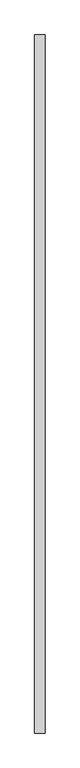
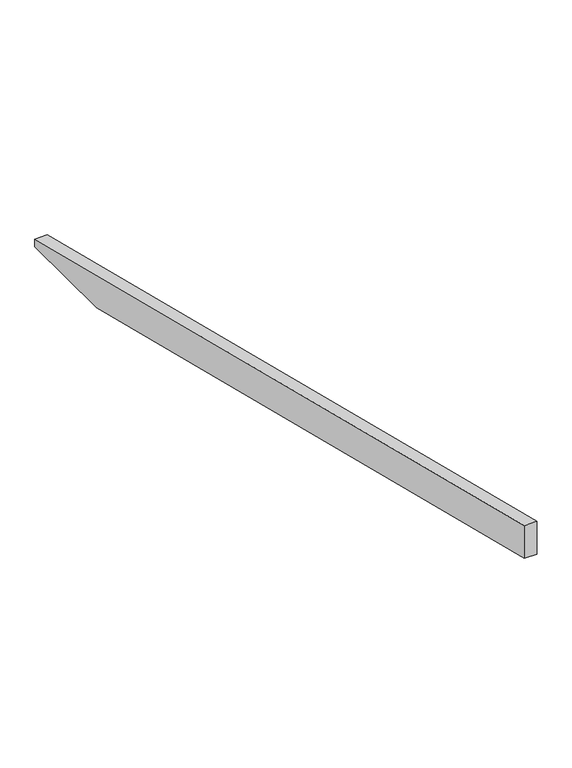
"""IFC4 building model written with IfcOpenShell, lengths in millimetres: proxy geometry, Modelos genéricos 92 : Modelos genéricos 12."""

from ifc_helpers import new_model, si_unit, frame, origin, place, context, project, spatial, polyline, outline, extrude, source, transform, mapped, element, save


def generic_models_42f0cbc4(model_context):
    return source(origin(), model_context, "Body", "SweptSolid", [
        extrude(outline(polyline([(6078.6238165, 3197.4798401), (6078.6238165, 3160.0), (5567.5767654, 3160.0), (2018.6238165, 4044.8533509), (2018.6238165, 4209.7515316), (6078.6238165, 3197.4798401)])), frame((1923.4472467, 0.0, 0.0), z_axis=(1.0, 0.0, 0.0), x_axis=(0.0, 1.0, 0.0)), (0.0, 0.0, 1.0), 60.0),
    ])


if __name__ == "__main__":
    model = new_model("IFC4")
    model_context = context("Model", 3, world=origin())
    ifc_project = project(units=[si_unit("LENGTHUNIT", "METRE", prefix="MILLI")], contexts=[model_context])
    site = spatial("IfcSite", under=ifc_project)
    building = spatial("IfcBuilding", under=site)
    placement = place(None, origin())
    generic_models_shape = generic_models_42f0cbc4(model_context)
    element("IfcBuildingElementProxy", 1, Name="Modelos genéricos 92 : Modelos genéricos 12", ObjectType="Modelos genéricos 92 : Modelos genéricos 12", at=placement, inside=building, context=model_context, shape_type="MappedRepresentation", body=[
        mapped(generic_models_shape, transform((0.0, 0.0, 0.0), x_axis=(1.0, 0.0, 0.0), y_axis=(0.0, 1.0, 0.0), z_axis=(0.0, 0.0, 1.0))),
    ])
    save(model, "model.ifc")
